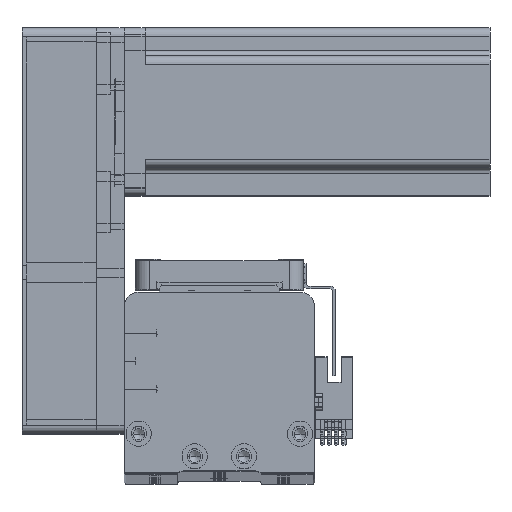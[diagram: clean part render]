
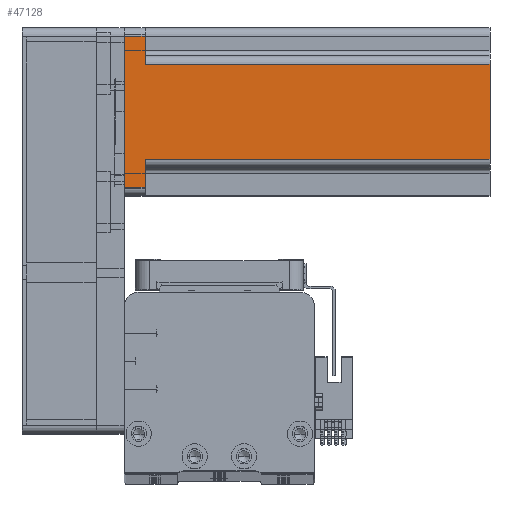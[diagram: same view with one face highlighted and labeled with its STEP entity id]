
A CAD part, top view. The second image highlights one B-rep face of the part: STEP entity #47128.
In plain terms, the highlighted planar face has unit normal (0, 0, 1) as drawn and (0, 1, 0) by its records, which use the part's own axes.
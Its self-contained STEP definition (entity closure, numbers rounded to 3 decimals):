
#1565 = CARTESIAN_POINT ( 'NONE',  ( 30., 30., 130.7 ) ) ;
#1930 = LINE ( 'NONE', #2867, #33945 ) ;
#2867 = CARTESIAN_POINT ( 'NONE',  ( -17., 30., 130.7 ) ) ;
#3564 = DIRECTION ( 'NONE',  ( 0., 0., -1. ) ) ;
#3979 = EDGE_CURVE ( 'NONE', #39227, #33245, #42747, .T. ) ;
#4511 = CARTESIAN_POINT ( 'NONE',  ( -27., 30., 130.7 ) ) ;
#5407 = LINE ( 'NONE', #20593, #17010 ) ;
#5955 = DIRECTION ( 'NONE',  ( 1., 0., 0. ) ) ;
#7923 = VERTEX_POINT ( 'NONE', #15999 ) ;
#9683 = CARTESIAN_POINT ( 'NONE',  ( 20., 30., 7.5 ) ) ;
#9990 = PLANE ( 'NONE',  #46463 ) ;
#10037 = CARTESIAN_POINT ( 'NONE',  ( 30., 30., 0. ) ) ;
#10254 = DIRECTION ( 'NONE',  ( 0., 0., -1. ) ) ;
#11740 = ORIENTED_EDGE ( 'NONE', *, *, #38472, .T. ) ;
#12109 = DIRECTION ( 'NONE',  ( 1., 0., 0. ) ) ;
#13460 = EDGE_CURVE ( 'NONE', #33245, #30423, #5407, .T. ) ;
#13686 = CARTESIAN_POINT ( 'NONE',  ( 27., 30., 0. ) ) ;
#15003 = VECTOR ( 'NONE', #32810, 1000. ) ;
#15213 = VECTOR ( 'NONE', #53085, 1000. ) ;
#15243 = ORIENTED_EDGE ( 'NONE', *, *, #20690, .F. ) ;
#15716 = EDGE_LOOP ( 'NONE', ( #36745, #45212, #15243, #11740, #30774, #27663, #28289, #22188 ) ) ;
#15999 = CARTESIAN_POINT ( 'NONE',  ( 17., 30., 7.5 ) ) ;
#17010 = VECTOR ( 'NONE', #12109, 1000. ) ;
#17180 = VECTOR ( 'NONE', #10254, 1000. ) ;
#18155 = VECTOR ( 'NONE', #35766, 1000. ) ;
#18354 = CARTESIAN_POINT ( 'NONE',  ( 17., 30., 130.7 ) ) ;
#19008 = EDGE_CURVE ( 'NONE', #36488, #39227, #48487, .T. ) ;
#19025 = CARTESIAN_POINT ( 'NONE',  ( -27., 30., 0. ) ) ;
#19531 = LINE ( 'NONE', #9683, #18155 ) ;
#20593 = CARTESIAN_POINT ( 'NONE',  ( -20., 30., 7.5 ) ) ;
#20690 = EDGE_CURVE ( 'NONE', #33681, #25538, #26567, .T. ) ;
#22188 = ORIENTED_EDGE ( 'NONE', *, *, #3979, .T. ) ;
#22981 = DIRECTION ( 'NONE',  ( 0., 0., 1. ) ) ;
#23011 = CARTESIAN_POINT ( 'NONE',  ( 27., 30., 130.7 ) ) ;
#24607 = CARTESIAN_POINT ( 'NONE',  ( -17., 30., 7.5 ) ) ;
#25254 = CARTESIAN_POINT ( 'NONE',  ( 17., 30., 130.7 ) ) ;
#25538 = VERTEX_POINT ( 'NONE', #38901 ) ;
#25926 = EDGE_CURVE ( 'NONE', #30423, #25538, #1930, .T. ) ;
#26567 = LINE ( 'NONE', #28437, #15003 ) ;
#27103 = VERTEX_POINT ( 'NONE', #27651 ) ;
#27651 = CARTESIAN_POINT ( 'NONE',  ( 27., 30., 7.5 ) ) ;
#27663 = ORIENTED_EDGE ( 'NONE', *, *, #45016, .T. ) ;
#28289 = ORIENTED_EDGE ( 'NONE', *, *, #19008, .T. ) ;
#28437 = CARTESIAN_POINT ( 'NONE',  ( 30., 30., 130.7 ) ) ;
#29650 = EDGE_CURVE ( 'NONE', #27103, #7923, #19531, .T. ) ;
#29682 = FACE_OUTER_BOUND ( 'NONE', #15716, .T. ) ;
#30423 = VERTEX_POINT ( 'NONE', #24607 ) ;
#30774 = ORIENTED_EDGE ( 'NONE', *, *, #29650, .F. ) ;
#31167 = VECTOR ( 'NONE', #22981, 1000. ) ;
#31749 = VECTOR ( 'NONE', #3564, 1000. ) ;
#32015 = DIRECTION ( 'NONE',  ( 0., -1., 0. ) ) ;
#32810 = DIRECTION ( 'NONE',  ( -1., 0., 0. ) ) ;
#33245 = VERTEX_POINT ( 'NONE', #40908 ) ;
#33681 = VERTEX_POINT ( 'NONE', #18354 ) ;
#33945 = VECTOR ( 'NONE', #37734, 1000. ) ;
#35766 = DIRECTION ( 'NONE',  ( -1., 0., 0. ) ) ;
#36488 = VERTEX_POINT ( 'NONE', #13686 ) ;
#36745 = ORIENTED_EDGE ( 'NONE', *, *, #13460, .T. ) ;
#37734 = DIRECTION ( 'NONE',  ( 0., 0., 1. ) ) ;
#38472 = EDGE_CURVE ( 'NONE', #33681, #7923, #44649, .T. ) ;
#38901 = CARTESIAN_POINT ( 'NONE',  ( -17., 30., 130.7 ) ) ;
#39227 = VERTEX_POINT ( 'NONE', #19025 ) ;
#40343 = LINE ( 'NONE', #23011, #17180 ) ;
#40908 = CARTESIAN_POINT ( 'NONE',  ( -27., 30., 7.5 ) ) ;
#42747 = LINE ( 'NONE', #4511, #31167 ) ;
#44649 = LINE ( 'NONE', #25254, #31749 ) ;
#45016 = EDGE_CURVE ( 'NONE', #27103, #36488, #40343, .T. ) ;
#45212 = ORIENTED_EDGE ( 'NONE', *, *, #25926, .T. ) ;
#46463 = AXIS2_PLACEMENT_3D ( 'NONE', #1565, #32015, #5955 ) ;
#47128 = ADVANCED_FACE ( 'NONE', ( #29682 ), #9990, .F. ) ;
#48487 = LINE ( 'NONE', #10037, #15213 ) ;
#53085 = DIRECTION ( 'NONE',  ( -1., 0., 0. ) ) ;
